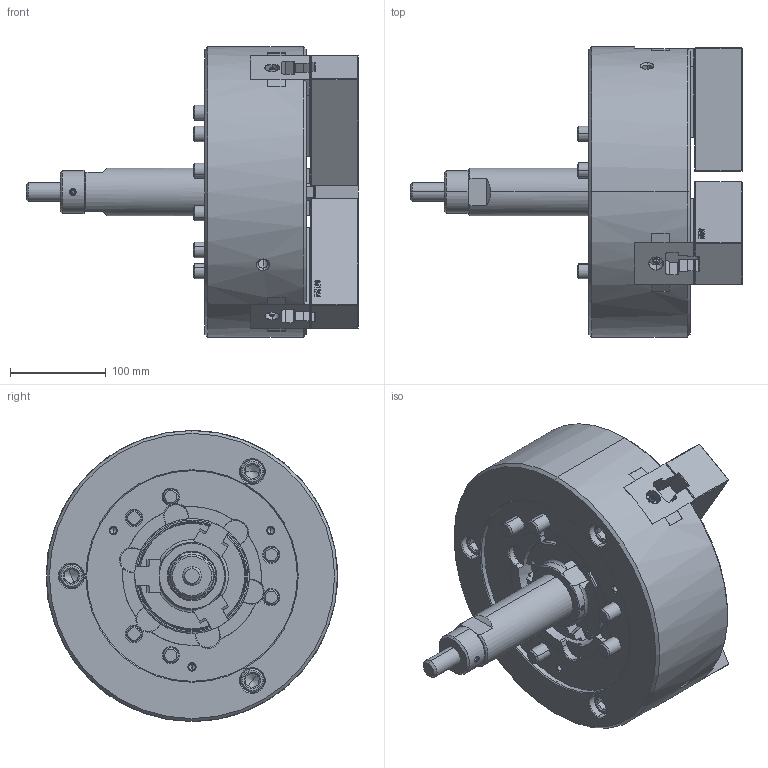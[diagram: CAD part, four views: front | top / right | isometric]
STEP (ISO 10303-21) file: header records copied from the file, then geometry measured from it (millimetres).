
FILE_DESCRIPTION (( 'STEP AP214' ), '1' );
FILE_NAME ('DT1_N-12_OUTSIDE_VIEW_HOL.STEP', '2026-03-12T00:50:51', ( '' ), ( '' ), 'SwSTEP 2.0', 'SolidWorks 2022', '' );
FILE_SCHEMA (( 'AUTOMOTIVE_DESIGN' ));
Length unit declared in the file: millimetre
Products named in the file (11): DT1_N-12_M16x100^DT1_N-12; DT1_N-12_BASE^DT1_N-12; DT1_N-12_TNUT^DT1_N-12; DT1_N-12_M5x12^DT1_N-12; DT1_N-12_DN^DT1_N-12; DT1_N-12_SOFTJAW^DT1_N-12; DT1_N-12_DRAWSCREW^DT1_N-12; DT1_N-12_COVER^DT1_N-12; DT1_N-12_OUTSIDE_VIEW_HOL; Copy of 61P312753^DT1_N-12; DT1_N-12_M14x45^DT1_N-12
Assembly tree (26 placements, depth 2):
  DT1_N-12_OUTSIDE_VIEW_HOL
    DT1_N-12_SOFTJAW^DT1_N-12  x3
    DT1_N-12_TNUT^DT1_N-12  x3
    DT1_N-12_COVER^DT1_N-12
    DT1_N-12_DRAWSCREW^DT1_N-12
    Copy of 61P312753^DT1_N-12
    DT1_N-12_DN^DT1_N-12
    DT1_N-12_BASE^DT1_N-12
    DT1_N-12_M5x12^DT1_N-12  x3
    DT1_N-12_M14x45^DT1_N-12  x6
    DT1_N-12_M16x100^DT1_N-12  x6
Bounding box: 346.85 x 304 x 304 mm (x, y, z)
Volume: 8268231 mm3; surface area: 684027.3 mm2
Topology: 26 solids, 26 shells, 5107 faces, 14496 edges, 9504 vertices
Faces by surface type: plane 3698, cylinder 685, cone 434, bspline 225, torus 59, sphere 6
Entity records: 119862 total; most frequent: CARTESIAN_POINT 32054, ORIENTED_EDGE 19704, DIRECTION 15989, EDGE_CURVE 9852, VECTOR 7389, LINE 7389, VERTEX_POINT 6480, AXIS2_PLACEMENT_3D 4300
